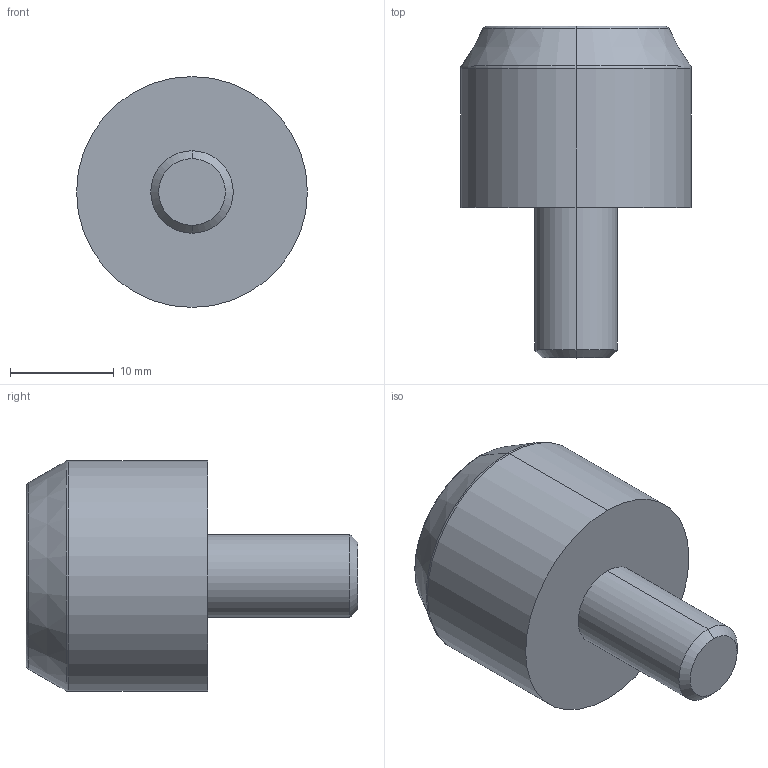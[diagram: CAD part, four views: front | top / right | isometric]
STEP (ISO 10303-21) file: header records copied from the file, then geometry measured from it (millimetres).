
FILE_DESCRIPTION (( 'STEP AP214' ), '1' );
FILE_NAME ('SE-.875-.156-S-A.STEP', '2014-06-19T18:38:51', ( 'admin' ), ( '' ), 'SwSTEP 2.0', 'SolidWorks 2011', '' );
FILE_SCHEMA (( 'AUTOMOTIVE_DESIGN' ));
Length unit declared in the file: inch
Products named in the file (1): SE-.875-.156-S-A
Bounding box: 22.23 x 31.94 x 22.23 mm (x, y, z)
Volume: 6745.3 mm3; surface area: 2362.3 mm2
Topology: 1 solids, 1 shells, 25 faces, 52 edges, 32 vertices
Faces by surface type: plane 11, cylinder 6, cone 4, torus 4
Entity records: 706 total; most frequent: DIRECTION 128, CARTESIAN_POINT 110, ORIENTED_EDGE 104, EDGE_CURVE 52, AXIS2_PLACEMENT_3D 50, VERTEX_POINT 32, LINE 28, VECTOR 28
